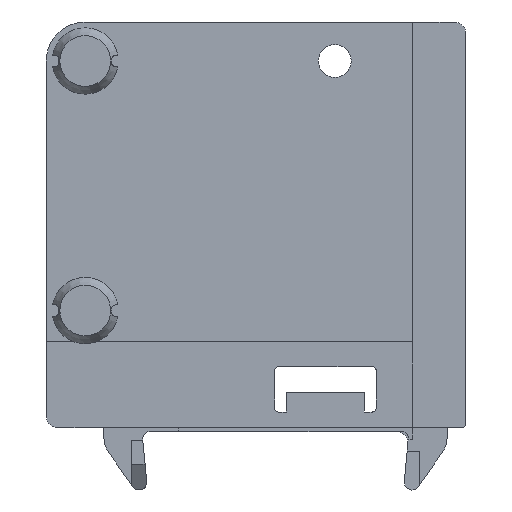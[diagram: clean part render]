
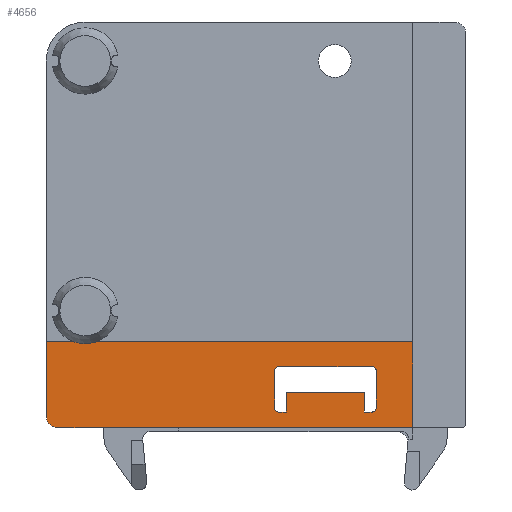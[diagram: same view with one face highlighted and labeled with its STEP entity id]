
A CAD part, front view. The second image highlights one B-rep face of the part: STEP entity #4656.
In plain terms, the highlighted planar face has unit normal (0, -1, 0).
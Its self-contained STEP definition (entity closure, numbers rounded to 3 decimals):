
#1640 = CARTESIAN_POINT ( 'NONE',  ( -3.5, 1., -47. ) ) ;
#1645 = CARTESIAN_POINT ( 'NONE',  ( 12., 1., -47. ) ) ;
#1649 = CARTESIAN_POINT ( 'NONE',  ( 42., 1., -36. ) ) ;
#1661 = CARTESIAN_POINT ( 'NONE',  ( -5., 1., -45.5 ) ) ;
#1662 = CARTESIAN_POINT ( 'NONE',  ( 42., 1., -47. ) ) ;
#1663 = CARTESIAN_POINT ( 'NONE',  ( -5., 1., -36. ) ) ;
#1694 = CARTESIAN_POINT ( 'NONE',  ( 24.8, 1., -45. ) ) ;
#1700 = CARTESIAN_POINT ( 'NONE',  ( 35.8, 1., -42.5 ) ) ;
#1701 = CARTESIAN_POINT ( 'NONE',  ( 36.8, 1., -45. ) ) ;
#1703 = CARTESIAN_POINT ( 'NONE',  ( 25.8, 1., -45. ) ) ;
#1705 = CARTESIAN_POINT ( 'NONE',  ( 35.8, 1., -45. ) ) ;
#1706 = CARTESIAN_POINT ( 'NONE',  ( 25.8, 1., -42.5 ) ) ;
#1707 = CARTESIAN_POINT ( 'NONE',  ( 24.3, 1., -44.5 ) ) ;
#1708 = CARTESIAN_POINT ( 'NONE',  ( 24.3, 1., -39.7 ) ) ;
#1709 = CARTESIAN_POINT ( 'NONE',  ( 24.8, 1., -39.2 ) ) ;
#1710 = CARTESIAN_POINT ( 'NONE',  ( 36.8, 1., -39.2 ) ) ;
#1711 = CARTESIAN_POINT ( 'NONE',  ( 37.3, 1., -39.7 ) ) ;
#1712 = CARTESIAN_POINT ( 'NONE',  ( 37.3, 1., -44.5 ) ) ;
#2880 = CARTESIAN_POINT ( 'NONE',  ( 42., 1., -47. ) ) ;
#2892 = DIRECTION ( 'NONE',  ( 0., 0., 1. ) ) ;
#2914 = DIRECTION ( 'NONE',  ( -1., 0., 0. ) ) ;
#2917 = DIRECTION ( 'NONE',  ( 0., 1., 0. ) ) ;
#2920 = CARTESIAN_POINT ( 'NONE',  ( -3.5, 1., -45.5 ) ) ;
#2924 = LINE ( 'NONE', #2880, #8857 ) ;
#3059 = DIRECTION ( 'NONE',  ( 0., 0., -1. ) ) ;
#3060 = CARTESIAN_POINT ( 'NONE',  ( -5., 1., -47. ) ) ;
#3061 = LINE ( 'NONE', #3060, #8864 ) ;
#3576 = AXIS2_PLACEMENT_3D ( 'NONE', #3830, #3829, #3827 ) ;
#3577 = CIRCLE ( 'NONE', #3576, 0.5 ) ;
#3578 = CIRCLE ( 'NONE', #3622, 0.5 ) ;
#3579 = VECTOR ( 'NONE', #3857, 1000. ) ;
#3580 = VECTOR ( 'NONE', #3870, 1000. ) ;
#3592 = VECTOR ( 'NONE', #3834, 1000. ) ;
#3594 = CIRCLE ( 'NONE', #3609, 0.5 ) ;
#3595 = VECTOR ( 'NONE', #3879, 1000. ) ;
#3607 = VECTOR ( 'NONE', #3824, 1000. ) ;
#3608 = VECTOR ( 'NONE', #3844, 1000. ) ;
#3609 = AXIS2_PLACEMENT_3D ( 'NONE', #3862, #3861, #3859 ) ;
#3610 = VECTOR ( 'NONE', #3865, 1000. ) ;
#3611 = VECTOR ( 'NONE', #3876, 1000. ) ;
#3622 = AXIS2_PLACEMENT_3D ( 'NONE', #3841, #3839, #3838 ) ;
#3623 = AXIS2_PLACEMENT_3D ( 'NONE', #3853, #3852, #3850 ) ;
#3624 = CIRCLE ( 'NONE', #3623, 0.5 ) ;
#3625 = VECTOR ( 'NONE', #3868, 1000. ) ;
#3764 = DIRECTION ( 'NONE',  ( 1., 0., 0. ) ) ;
#3768 = CARTESIAN_POINT ( 'NONE',  ( -5., 1., -47. ) ) ;
#3770 = LINE ( 'NONE', #3768, #8311 ) ;
#3824 = DIRECTION ( 'NONE',  ( -1., 0., 0. ) ) ;
#3827 = DIRECTION ( 'NONE',  ( -1., 0., 0. ) ) ;
#3829 = DIRECTION ( 'NONE',  ( 0., -1., 0. ) ) ;
#3830 = CARTESIAN_POINT ( 'NONE',  ( 36.8, 1., -44.5 ) ) ;
#3831 = LINE ( 'NONE', #3837, #3607 ) ;
#3834 = DIRECTION ( 'NONE',  ( 0., 0., 1. ) ) ;
#3837 = CARTESIAN_POINT ( 'NONE',  ( -5., 1., -36. ) ) ;
#3838 = DIRECTION ( 'NONE',  ( -1., 0., 0. ) ) ;
#3839 = DIRECTION ( 'NONE',  ( 0., -1., 0. ) ) ;
#3841 = CARTESIAN_POINT ( 'NONE',  ( 36.8, 1., -39.7 ) ) ;
#3842 = LINE ( 'NONE', #3847, #3592 ) ;
#3844 = DIRECTION ( 'NONE',  ( -1., 0., 0. ) ) ;
#3846 = CARTESIAN_POINT ( 'NONE',  ( 36.8, 1., -39.2 ) ) ;
#3847 = CARTESIAN_POINT ( 'NONE',  ( 37.3, 1., -44.5 ) ) ;
#3848 = LINE ( 'NONE', #3846, #3608 ) ;
#3850 = DIRECTION ( 'NONE',  ( -1., 0., 0. ) ) ;
#3852 = DIRECTION ( 'NONE',  ( 0., -1., 0. ) ) ;
#3853 = CARTESIAN_POINT ( 'NONE',  ( 24.8, 1., -39.7 ) ) ;
#3857 = DIRECTION ( 'NONE',  ( 0., 0., -1. ) ) ;
#3859 = DIRECTION ( 'NONE',  ( -1., 0., 0. ) ) ;
#3861 = DIRECTION ( 'NONE',  ( 0., -1., 0. ) ) ;
#3862 = CARTESIAN_POINT ( 'NONE',  ( 24.8, 1., -44.5 ) ) ;
#3864 = LINE ( 'NONE', #3866, #3579 ) ;
#3865 = DIRECTION ( 'NONE',  ( 1., 0., 0. ) ) ;
#3866 = CARTESIAN_POINT ( 'NONE',  ( 24.3, 1., -39.7 ) ) ;
#3867 = CARTESIAN_POINT ( 'NONE',  ( 24.8, 1., -45. ) ) ;
#3868 = DIRECTION ( 'NONE',  ( 0., 0., 1. ) ) ;
#3869 = CARTESIAN_POINT ( 'NONE',  ( 25.8, 1., -45. ) ) ;
#3870 = DIRECTION ( 'NONE',  ( 1., 0., 0. ) ) ;
#3871 = CARTESIAN_POINT ( 'NONE',  ( 25.8, 1., -42.5 ) ) ;
#3876 = DIRECTION ( 'NONE',  ( 0., 0., -1. ) ) ;
#3877 = LINE ( 'NONE', #3867, #3610 ) ;
#3878 = CARTESIAN_POINT ( 'NONE',  ( 35.8, 1., -42.5 ) ) ;
#3879 = DIRECTION ( 'NONE',  ( 1., 0., 0. ) ) ;
#3882 = CARTESIAN_POINT ( 'NONE',  ( 35.8, 1., -45. ) ) ;
#3883 = LINE ( 'NONE', #3869, #3625 ) ;
#3884 = LINE ( 'NONE', #3882, #3595 ) ;
#3892 = LINE ( 'NONE', #3871, #3580 ) ;
#3910 = LINE ( 'NONE', #3878, #3611 ) ;
#4121 = AXIS2_PLACEMENT_3D ( 'NONE', #6343, #6346, #6338 ) ;
#4639 = EDGE_CURVE ( 'NONE', #7375, #7380, #6432, .T. ) ;
#4656 = ADVANCED_FACE ( 'NONE', ( #6342, #6348 ), #6340, .F. ) ;
#4832 = EDGE_CURVE ( 'NONE', #7380, #7397, #3770, .T. ) ;
#4886 = EDGE_CURVE ( 'NONE', #7440, #7436, #3884, .T. ) ;
#4887 = EDGE_CURVE ( 'NONE', #7435, #7440, #3910, .T. ) ;
#4888 = EDGE_CURVE ( 'NONE', #7441, #7435, #3892, .T. ) ;
#4889 = EDGE_CURVE ( 'NONE', #7438, #7441, #3883, .T. ) ;
#4890 = EDGE_CURVE ( 'NONE', #7429, #7438, #3877, .T. ) ;
#4891 = EDGE_CURVE ( 'NONE', #7442, #7429, #3594, .T. ) ;
#4892 = EDGE_CURVE ( 'NONE', #7443, #7442, #3864, .T. ) ;
#4893 = EDGE_CURVE ( 'NONE', #7444, #7443, #3624, .T. ) ;
#4895 = EDGE_CURVE ( 'NONE', #7445, #7444, #3848, .T. ) ;
#4896 = EDGE_CURVE ( 'NONE', #7446, #7445, #3578, .T. ) ;
#4897 = EDGE_CURVE ( 'NONE', #7447, #7446, #3842, .T. ) ;
#4898 = EDGE_CURVE ( 'NONE', #7436, #7447, #3577, .T. ) ;
#4899 = EDGE_CURVE ( 'NONE', #7384, #7398, #3831, .T. ) ;
#5186 = EDGE_CURVE ( 'NONE', #7375, #7396, #8854, .T. ) ;
#5189 = EDGE_CURVE ( 'NONE', #7397, #7384, #2924, .T. ) ;
#5207 = EDGE_CURVE ( 'NONE', #7398, #7396, #3061, .T. ) ;
#6338 = DIRECTION ( 'NONE',  ( -1., 0., 0. ) ) ;
#6340 = PLANE ( 'NONE',  #4121 ) ;
#6342 = FACE_BOUND ( 'NONE', #7813, .T. ) ;
#6343 = CARTESIAN_POINT ( 'NONE',  ( -5., 1., -36. ) ) ;
#6346 = DIRECTION ( 'NONE',  ( 0., 1., 0. ) ) ;
#6348 = FACE_OUTER_BOUND ( 'NONE', #7811, .T. ) ;
#6423 = DIRECTION ( 'NONE',  ( 1., 0., 0. ) ) ;
#6425 = CARTESIAN_POINT ( 'NONE',  ( -5., 1., -47. ) ) ;
#6432 = LINE ( 'NONE', #6425, #8630 ) ;
#6873 = ORIENTED_EDGE ( 'NONE', *, *, #4895, .F. ) ;
#6889 = ORIENTED_EDGE ( 'NONE', *, *, #4896, .F. ) ;
#6890 = ORIENTED_EDGE ( 'NONE', *, *, #4893, .F. ) ;
#6895 = ORIENTED_EDGE ( 'NONE', *, *, #5207, .T. ) ;
#7375 = VERTEX_POINT ( 'NONE', #1640 ) ;
#7380 = VERTEX_POINT ( 'NONE', #1645 ) ;
#7384 = VERTEX_POINT ( 'NONE', #1649 ) ;
#7396 = VERTEX_POINT ( 'NONE', #1661 ) ;
#7397 = VERTEX_POINT ( 'NONE', #1662 ) ;
#7398 = VERTEX_POINT ( 'NONE', #1663 ) ;
#7429 = VERTEX_POINT ( 'NONE', #1694 ) ;
#7435 = VERTEX_POINT ( 'NONE', #1700 ) ;
#7436 = VERTEX_POINT ( 'NONE', #1701 ) ;
#7438 = VERTEX_POINT ( 'NONE', #1703 ) ;
#7440 = VERTEX_POINT ( 'NONE', #1705 ) ;
#7441 = VERTEX_POINT ( 'NONE', #1706 ) ;
#7442 = VERTEX_POINT ( 'NONE', #1707 ) ;
#7443 = VERTEX_POINT ( 'NONE', #1708 ) ;
#7444 = VERTEX_POINT ( 'NONE', #1709 ) ;
#7445 = VERTEX_POINT ( 'NONE', #1710 ) ;
#7446 = VERTEX_POINT ( 'NONE', #1711 ) ;
#7447 = VERTEX_POINT ( 'NONE', #1712 ) ;
#7811 = EDGE_LOOP ( 'NONE', ( #9538, #9855, #9837, #10081, #6895, #9794 ) ) ;
#7813 = EDGE_LOOP ( 'NONE', ( #9808, #9807, #9801, #9951, #9800, #9739, #9832, #6890, #6873, #6889, #9843, #9835 ) ) ;
#8311 = VECTOR ( 'NONE', #3764, 1000. ) ;
#8630 = VECTOR ( 'NONE', #6423, 1000. ) ;
#8854 = CIRCLE ( 'NONE', #8884, 1.5 ) ;
#8857 = VECTOR ( 'NONE', #2892, 1000. ) ;
#8864 = VECTOR ( 'NONE', #3059, 1000. ) ;
#8884 = AXIS2_PLACEMENT_3D ( 'NONE', #2920, #2917, #2914 ) ;
#9538 = ORIENTED_EDGE ( 'NONE', *, *, #4639, .T. ) ;
#9739 = ORIENTED_EDGE ( 'NONE', *, *, #4891, .F. ) ;
#9794 = ORIENTED_EDGE ( 'NONE', *, *, #5186, .F. ) ;
#9800 = ORIENTED_EDGE ( 'NONE', *, *, #4890, .F. ) ;
#9801 = ORIENTED_EDGE ( 'NONE', *, *, #4888, .F. ) ;
#9807 = ORIENTED_EDGE ( 'NONE', *, *, #4887, .F. ) ;
#9808 = ORIENTED_EDGE ( 'NONE', *, *, #4886, .F. ) ;
#9832 = ORIENTED_EDGE ( 'NONE', *, *, #4892, .F. ) ;
#9835 = ORIENTED_EDGE ( 'NONE', *, *, #4898, .F. ) ;
#9837 = ORIENTED_EDGE ( 'NONE', *, *, #5189, .T. ) ;
#9843 = ORIENTED_EDGE ( 'NONE', *, *, #4897, .F. ) ;
#9855 = ORIENTED_EDGE ( 'NONE', *, *, #4832, .T. ) ;
#9951 = ORIENTED_EDGE ( 'NONE', *, *, #4889, .F. ) ;
#10081 = ORIENTED_EDGE ( 'NONE', *, *, #4899, .T. ) ;
